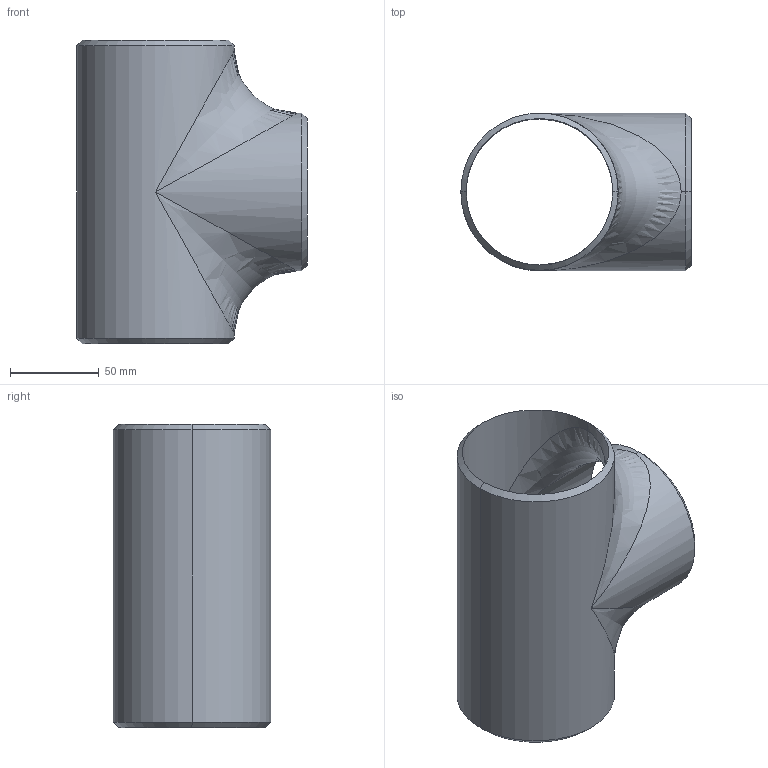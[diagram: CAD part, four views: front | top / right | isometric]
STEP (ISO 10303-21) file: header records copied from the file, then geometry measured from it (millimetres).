
FILE_DESCRIPTION (( 'STEP AP203' ), '1' );
FILE_NAME ('3D_R266_3x10S_173445170.STEP', '2024-08-23T11:13:22', ( '' ), ( '' ), 'SwSTEP 2.0', 'SolidWorks 2024', '' );
FILE_SCHEMA (( 'CONFIG_CONTROL_DESIGN' ));
Length unit declared in the file: millimetre
Products named in the file (1): 3D_R266_3x10S_173445170
Bounding box: 130.15 x 88.9 x 171.4 mm (x, y, z)
Volume: 160129.4 mm3; surface area: 108415.8 mm2
Topology: 1 solids, 1 shells, 21 faces, 58 edges, 30 vertices
Faces by surface type: cylinder 8, cone 6, bspline 4, plane 3
Entity records: 1363 total; most frequent: CARTESIAN_POINT 842, ORIENTED_EDGE 100, DIRECTION 88, EDGE_CURVE 50, AXIS2_PLACEMENT_3D 36, VERTEX_POINT 30, EDGE_LOOP 24, FACE_OUTER_BOUND 21
